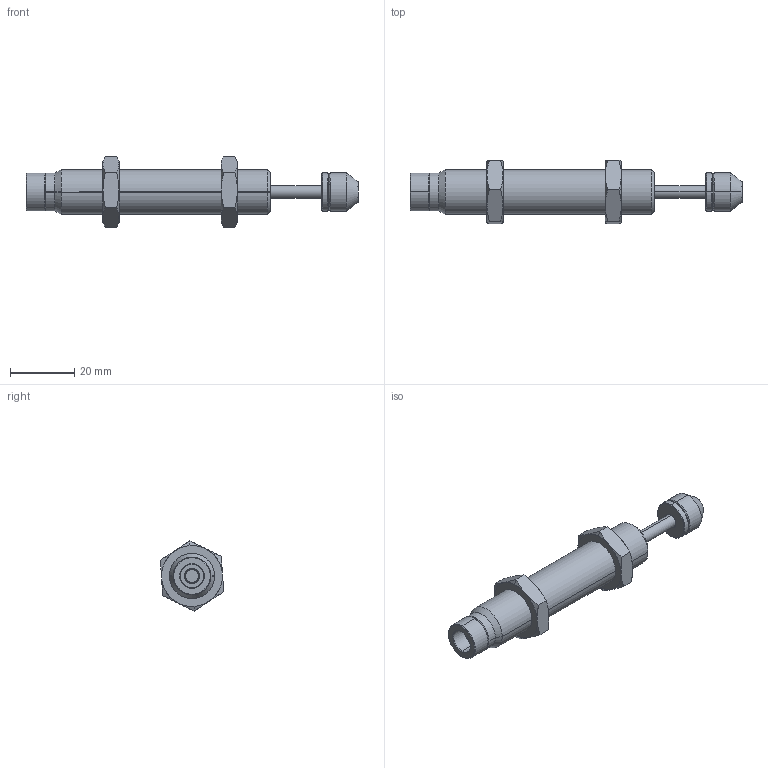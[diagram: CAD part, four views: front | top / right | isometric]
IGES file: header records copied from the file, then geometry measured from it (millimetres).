
Start section: SolidWorks IGES file using analytic representation for surfaces
Global section: file name: D:\IGS跡宒\AC1416(P1.0)-C.IGS,1; native system: 5HSolidWorks 2013; preprocessor: SolidWorks 2013; author: Administrator; date: 160412.105727; units: inch
Bounding box: 103.2 x 19.67 x 21.89 mm (x, y, z)
Surface area: 6340.9 mm2 (no closed solid volume)
Topology: 0 solids, 0 shells, 87 faces, 1416 edges, 1416 vertices
Faces by surface type: revolution 62, bspline 25
